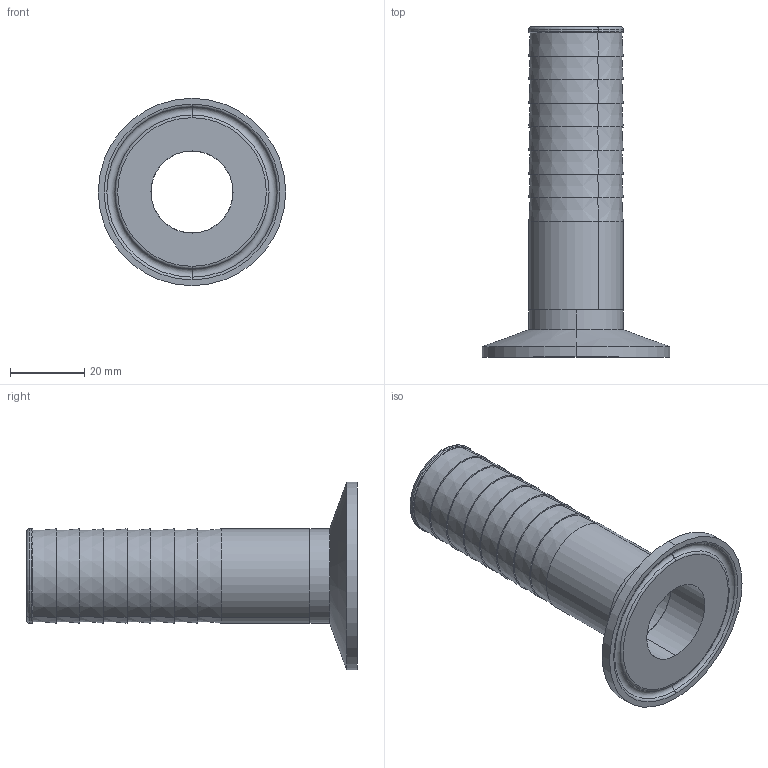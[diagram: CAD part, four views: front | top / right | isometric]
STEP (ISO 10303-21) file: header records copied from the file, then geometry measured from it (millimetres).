
FILE_DESCRIPTION (( 'STEP AP203' ), '1' );
FILE_NAME ('EG14RT1.0.STEP', '2018-05-03T13:32:21', ( 'vneprd' ), ( 'Microsoft' ), 'SwSTEP 2.0', 'SolidWorks 2014', '' );
FILE_SCHEMA (( 'CONFIG_CONTROL_DESIGN' ));
Length unit declared in the file: inch
Products named in the file (3): EG2CS1.0; V14RH1.0; EG14RT1.0
Assembly tree (2 placements, depth 2):
  EG14RT1.0
    EG2CS1.0
    V14RH1.0
Bounding box: 50.39 x 88.9 x 50.39 mm (x, y, z)
Volume: 17197.1 mm3; surface area: 16967 mm2
Topology: 2 solids, 2 shells, 53 faces, 106 edges, 66 vertices
Faces by surface type: cone 18, plane 13, cylinder 12, torus 10
Entity records: 1723 total; most frequent: DIRECTION 298, CARTESIAN_POINT 230, ORIENTED_EDGE 212, AXIS2_PLACEMENT_3D 134, EDGE_CURVE 106, CIRCLE 76, VERTEX_POINT 66, EDGE_LOOP 66
